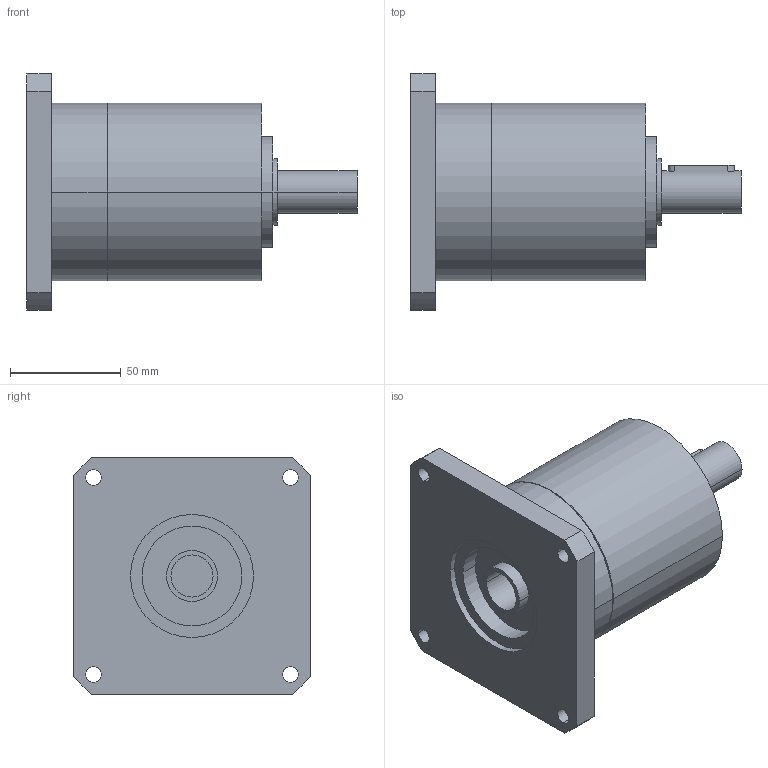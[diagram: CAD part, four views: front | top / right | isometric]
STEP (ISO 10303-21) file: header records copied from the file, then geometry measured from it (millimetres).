
FILE_DESCRIPTION(('CoCreate Modeling STEP Export'),'2;1');
FILE_NAME('GPR100_ig-3-4-5-6_19_B14_19_P02.stp','2014-08-26T10:08:31',(''),(''),'CoCreate Modeling STEP processor for AP214 (Solid Model)','CoCreate Modeling 16.00C 25-Feb-2009 (C) Parametric Technology GmbH','');
FILE_SCHEMA(('AUTOMOTIVE_DESIGN { 1 0 10303 214 1 1 1 1 }'));
Length unit declared in the file: millimetre
Products named in the file (2): GPR100_ig-3-4-5-6_19_B14_19_P02
Assembly tree (1 placements, depth 2):
  GPR100_ig-3-4-5-6_19_B14_19_P02
    GPR100_ig-3-4-5-6_19_B14_19_P02
Bounding box: 149 x 106.5 x 106.5 mm (x, y, z)
Volume: 591417.2 mm3; surface area: 60789.6 mm2
Topology: 1 solids, 1 shells, 70 faces, 190 edges, 134 vertices
Faces by surface type: cylinder 42, plane 22, cone 6
Entity records: 1949 total; most frequent: ORIENTED_EDGE 376, CARTESIAN_POINT 362, DIRECTION 262, EDGE_CURVE 188, VERTEX_POINT 134, AXIS2_PLACEMENT_3D 98, EDGE_LOOP 92, FACE_OUTER_BOUND 70
